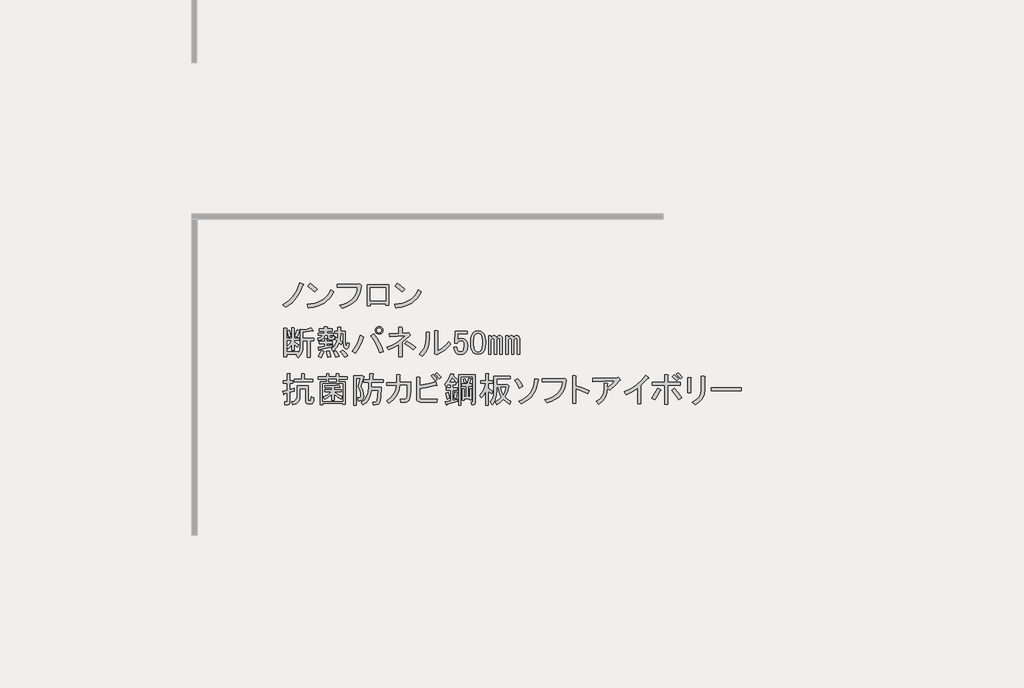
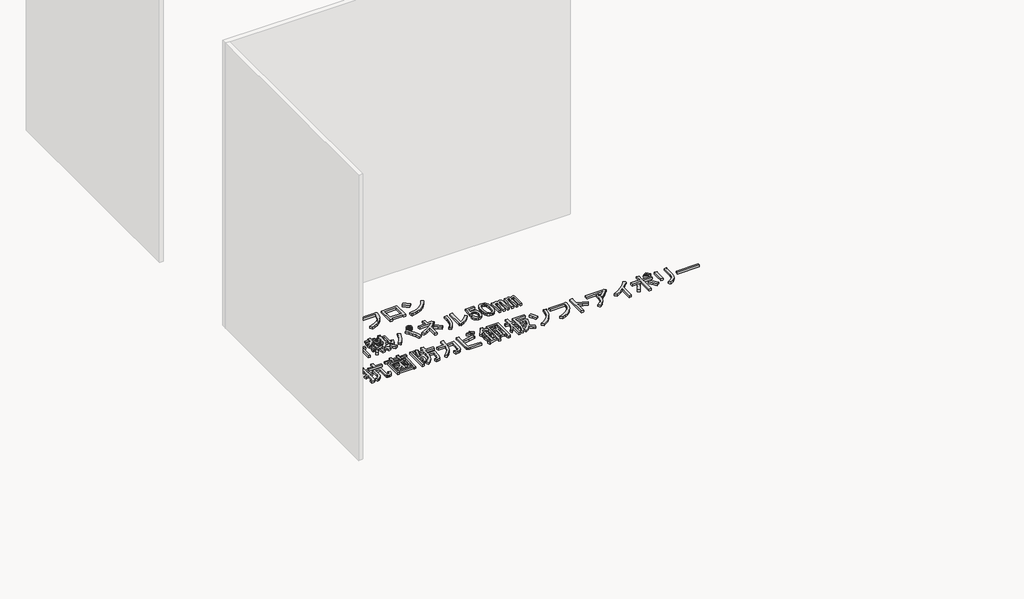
# One storey, part 70 of 117: 1 proxy.
"""IFC4 building model written with IfcOpenShell, lengths in millimetres."""

from ifc_helpers import new_model, si_unit, frame, origin, place, context, project, spatial, polyline, outline, extrude, element, save

model = new_model("IFC4")

# Units and contexts
model_context = context("Model", 3, world=origin())
ifc_project = project(units=[si_unit("LENGTHUNIT", "METRE", prefix="MILLI")], contexts=[model_context])

# Site, building, storey
site = spatial("IfcSite", under=ifc_project)
building = spatial("IfcBuilding", under=site)
storey = spatial("IfcBuildingStorey", under=building, Name="レベル 1", Elevation=500.0)

# Proxy
placement = place(None, origin())
element("IfcBuildingElementProxy", 1, Name="200㎜\u3000MS Pゴシック", ObjectType="200㎜\u3000MS Pゴシック", at=placement, inside=storey, context=model_context, shape_type="SweptSolid", body=[
    extrude(outline(polyline([(-7056.3293015, 7392.9503118), (-7081.9047498, 7333.1784775), (-7110.353844, 7287.2001434), (-7152.0217093, 7241.7965385), (-7201.1610538, 7204.439142), (-7228.7480543, 7226.2788507), (-7181.0455327, 7256.7394971), (-7141.3892195, 7295.2463519), (-7124.0036619, 7319.1694538), (-7108.6296565, 7347.2593423), (-7095.2672031, 7379.5160173), (-7083.9163019, 7415.9394788), (-7052.8809264, 7402.1459786), (-7049.7199159, 7397.5481452), (-7056.3293015, 7392.9503118)])), frame((0.0, 0.0, 500.0), z_axis=(0.0, 0.0, 1.0), x_axis=(1.0, 0.0, 0.0)), (0.0, 0.0, 1.0), 25.0),
    extrude(outline(polyline([(-6956.6022948, 7337.7763109), (-7015.2246708, 7384.9041033), (-6995.6838788, 7409.0427287), (-6968.3842429, 7389.2145721), (-6934.7625862, 7359.6160196), (-6956.6022948, 7337.7763109)])), frame((0.0, 0.0, 500.0), z_axis=(0.0, 0.0, 1.0), x_axis=(1.0, 0.0, 0.0)), (0.0, 0.0, 1.0), 25.0),
    extrude(outline(polyline([(-6794.5286672, 7337.7763109), (-6811.052131, 7308.034076), (-6830.1618761, 7282.0275808), (-6851.8579025, 7259.7568252), (-6876.1402102, 7241.2218093), (-6903.0087992, 7226.422533), (-6932.4636694, 7215.3589964), (-6964.504821, 7208.0311994), (-6999.1322539, 7204.439142), (-7004.8795456, 7196.3929336), (-7010.6268374, 7202.1402253), (-7019.8225042, 7232.0261425), (-6983.9917321, 7234.7022252), (-6951.2142088, 7241.0062859), (-6921.4899342, 7250.9383244), (-6894.8189084, 7264.4983409), (-6871.2011313, 7281.6863354), (-6850.636603, 7302.5023077), (-6833.1253234, 7326.946258), (-6818.6672926, 7355.0181862), (-6794.5286672, 7337.7763109)])), frame((0.0, 0.0, 500.0), z_axis=(0.0, 0.0, 1.0), x_axis=(1.0, 0.0, 0.0)), (0.0, 0.0, 1.0), 25.0),
    extrude(outline(polyline([(-6743.7685864, 7222.8304757), (-6709.985287, 7232.5110702), (-6680.4765359, 7244.8857078), (-6655.242333, 7259.9543884), (-6634.2826783, 7277.717112), (-6617.597572, 7298.1738786), (-6605.1870138, 7321.3246882), (-6597.0510039, 7347.1695409), (-6593.1895423, 7375.7084365), (-6765.6082951, 7375.7084365), (-6765.6082951, 7400.9965202), (-6590.8906256, 7400.9965202), (-6574.7982086, 7404.4448953), (-6562.1541668, 7392.9503118), (-6565.674383, 7356.4550091), (-6573.9361149, 7323.4080815), (-6586.9393625, 7293.8095289), (-6604.6841258, 7267.6593514), (-6627.1704048, 7244.957549), (-6654.3981995, 7225.7041216), (-6686.3675099, 7209.8990692), (-6723.078336, 7197.5423919), (-6743.7685864, 7222.8304757)])), frame((0.0, 0.0, 500.0), z_axis=(0.0, 0.0, 1.0), x_axis=(1.0, 0.0, 0.0)), (0.0, 0.0, 1.0), 25.0),
    extrude(outline(polyline([(-6329.044013, 7223.979934), (-6355.4815551, 7223.979934), (-6355.4815551, 7236.6239759), (-6483.0714321, 7236.6239759), (-6483.0714321, 7218.2326423), (-6509.5089742, 7218.2326423), (-6509.5089742, 7397.5481452), (-6329.044013, 7397.5481452), (-6329.044013, 7223.979934)]), holes=[polyline([(-6483.0714321, 7372.2600614), (-6483.0714321, 7261.9120596), (-6355.4815551, 7261.9120596), (-6355.4815551, 7372.2600614), (-6483.0714321, 7372.2600614)])]), frame((0.0, 0.0, 500.0), z_axis=(0.0, 0.0, 1.0), x_axis=(1.0, 0.0, 0.0)), (0.0, 0.0, 1.0), 25.0),
    extrude(outline(polyline([(-6052.9900951, 7337.7763109), (-6069.5135589, 7308.034076), (-6088.623304, 7282.0275808), (-6110.3193304, 7259.7568252), (-6134.6016381, 7241.2218093), (-6161.4702271, 7226.422533), (-6190.9250974, 7215.3589964), (-6222.9662489, 7208.0311994), (-6257.5936818, 7204.439142), (-6263.3409736, 7196.3929336), (-6269.0882653, 7202.1402253), (-6278.2839321, 7232.0261425), (-6242.4531601, 7234.7022252), (-6209.6756367, 7241.0062859), (-6179.9513622, 7250.9383244), (-6153.2803363, 7264.4983409), (-6129.6625593, 7281.6863354), (-6109.0980309, 7302.5023077), (-6091.5867514, 7326.946258), (-6077.1287205, 7355.0181862), (-6052.9900951, 7337.7763109)])), frame((0.0, 0.0, 500.0), z_axis=(0.0, 0.0, 1.0), x_axis=(1.0, 0.0, 0.0)), (0.0, 0.0, 1.0), 25.0),
    extrude(outline(polyline([(-6215.0637228, 7337.7763109), (-6273.6860987, 7384.9041033), (-6254.1453067, 7409.0427287), (-6226.8456709, 7389.2145721), (-6193.2240141, 7359.6160196), (-6215.0637228, 7337.7763109)])), frame((0.0, 0.0, 500.0), z_axis=(0.0, 0.0, 1.0), x_axis=(1.0, 0.0, 0.0)), (0.0, 0.0, 1.0), 25.0),
    extrude(outline(polyline([(-7122.9978859, 6960.7654779), (-7105.7560106, 7013.6405621), (-7085.0657603, 7007.8932704), (-7083.3415727, 7004.7322599), (-7087.364677, 7002.1459786), (-7104.6065522, 6953.8687278), (-7122.9978859, 6960.7654779)])), frame((0.0, 0.0, 500.0), z_axis=(0.0, 0.0, 1.0), x_axis=(1.0, 0.0, 0.0)), (0.0, 0.0, 1.0), 25.0),
    extrude(outline(polyline([(-6968.9704667, 7009.0427287), (-6970.6946542, 7004.4448953), (-6978.1661335, 7006.743812), (-7055.1798431, 6994.0997701), (-7055.1798431, 6944.673061), (-6963.2231749, 6944.673061), (-6963.2231749, 6922.8333523), (-6994.2585505, 6922.8333523), (-6994.2585505, 6782.5994334), (-7017.2477175, 6782.5994334), (-7017.2477175, 6922.8333523), (-7055.1798431, 6922.8333523), (-7055.1798431, 6873.4066432), (-7057.7661244, 6845.6041193), (-7065.5249683, 6820.8189236), (-7078.4563747, 6799.051056), (-7096.5603438, 6780.3005167), (-7113.8022191, 6799.8413086), (-7103.4570939, 6809.0369755), (-7193.1148454, 6809.0369755), (-7193.1148454, 6787.1972668), (-7216.1040124, 6787.1972668), (-7216.1040124, 7026.284604), (-7194.2643037, 7026.284604), (-7189.3791057, 7023.9856873), (-7193.1148454, 7019.3878539), (-7193.1148454, 6943.5236026), (-7150.5848863, 6943.5236026), (-7150.5848863, 7030.8824374), (-7132.1935527, 7030.8824374), (-7127.3083547, 7028.5835207), (-7131.0440943, 7023.9856873), (-7131.0440943, 6943.5236026), (-7087.364677, 6943.5236026), (-7087.364677, 6925.132269), (-7131.0440943, 6925.132269), (-7131.0440943, 6915.9366022), (-7090.813052, 6889.4990601), (-7104.6065522, 6867.6593514), (-7131.0440943, 6894.0968935), (-7131.0440943, 6841.2218093), (-7150.5848863, 6841.2218093), (-7150.5848863, 6889.4990601), (-7163.8036574, 6869.6709035), (-7178.1718868, 6853.8658512), (-7190.8159287, 6872.2571848), (-7168.97622, 6896.3958102), (-7151.7343447, 6925.132269), (-7193.1148454, 6925.132269), (-7193.1148454, 6830.8766841), (-7095.4108854, 6830.8766841), (-7095.4108854, 6817.0831839), (-7082.479479, 6841.2218093), (-7078.1690102, 6874.5561015), (-7078.1690102, 7019.3878539), (-7056.3293015, 7013.6405621), (-7020.1213634, 7021.1120414), (-6989.660717, 7034.3308125), (-6968.9704667, 7009.0427287)])), frame((0.0, 0.0, 500.0), z_axis=(0.0, 0.0, 1.0), x_axis=(1.0, 0.0, 0.0)), (0.0, 0.0, 1.0), 25.0),
    extrude(outline(polyline([(-7177.0224284, 6952.7192695), (-7189.6664703, 7003.2954369), (-7170.1256783, 7010.1921871), (-7162.3668344, 6986.0535617), (-7157.4816364, 6959.6160196), (-7177.0224284, 6952.7192695)])), frame((0.0, 0.0, 500.0), z_axis=(0.0, 0.0, 1.0), x_axis=(1.0, 0.0, 0.0)), (0.0, 0.0, 1.0), 25.0),
    extrude(outline(polyline([(-6878.1632569, 6832.0261425), (-6874.7148818, 6827.1409445), (-6880.4621736, 6823.979934), (-6890.2325696, 6798.4044857), (-6901.1524239, 6779.1510583), (-6924.141591, 6790.6456418), (-6911.4975491, 6814.209538), (-6901.1524239, 6841.2218093), (-6878.1632569, 6832.0261425)])), frame((0.0, 0.0, 500.0), z_axis=(0.0, 0.0, 1.0), x_axis=(1.0, 0.0, 0.0)), (0.0, 0.0, 1.0), 25.0),
    extrude(outline(polyline([(-6833.3343812, 6836.6239759), (-6823.2766206, 6809.32434), (-6818.3914226, 6787.1972668), (-6847.1278814, 6781.449975), (-6849.7141627, 6803.0023191), (-6857.4730066, 6833.1756008), (-6833.3343812, 6836.6239759)])), frame((0.0, 0.0, 500.0), z_axis=(0.0, 0.0, 1.0), x_axis=(1.0, 0.0, 0.0)), (0.0, 0.0, 1.0), 25.0),
    extrude(outline(polyline([(-6718.388546, 6842.3712677), (-6693.6751914, 6821.1062881), (-6674.7091286, 6796.3929336), (-6701.1466707, 6781.449975), (-6720.4000981, 6811.0485276), (-6739.0787963, 6830.8766841), (-6718.388546, 6842.3712677)])), frame((0.0, 0.0, 500.0), z_axis=(0.0, 0.0, 1.0), x_axis=(1.0, 0.0, 0.0)), (0.0, 0.0, 1.0), 25.0),
    extrude(outline(polyline([(-6777.0109219, 6783.7488917), (-6785.344495, 6808.4622463), (-6798.8506306, 6829.7272258), (-6778.1603803, 6837.7734343), (-6761.2058696, 6816.2210902), (-6749.4239215, 6792.9445585), (-6777.0109219, 6783.7488917)])), frame((0.0, 0.0, 500.0), z_axis=(0.0, 0.0, 1.0), x_axis=(1.0, 0.0, 0.0)), (0.0, 0.0, 1.0), 25.0),
    extrude(outline(polyline([(-6916.0953825, 6846.9691011), (-6918.1069346, 6842.0839031), (-6921.8426743, 6843.520726), (-6927.589966, 6867.6593514), (-6872.4159651, 6875.7055599), (-6872.4159651, 6898.6947269), (-6916.0953825, 6898.6947269), (-6916.0953825, 6917.0860605), (-6872.4159651, 6917.0860605), (-6872.4159651, 6940.0752276), (-6854.0246315, 6940.0752276), (-6849.1394335, 6937.7763109), (-6852.8751732, 6933.1784775), (-6852.8751732, 6917.0860605), (-6808.0462974, 6917.0860605), (-6808.0462974, 6898.6947269), (-6852.8751732, 6898.6947269), (-6852.8751732, 6879.1539349), (-6802.2990057, 6888.3496017), (-6802.2990057, 6872.2571848), (-6916.0953825, 6846.9691011)])), frame((0.0, 0.0, 500.0), z_axis=(0.0, 0.0, 1.0), x_axis=(1.0, 0.0, 0.0)), (0.0, 0.0, 1.0), 25.0),
    extrude(outline(polyline([(-6845.978423, 6968.8116864), (-6871.2665068, 6968.8116864), (-6875.8643402, 6951.3542877), (-6886.2094654, 6938.0636755), (-6902.3018823, 6928.9398498), (-6924.141591, 6923.9828107), (-6928.7394244, 6943.5236026), (-6903.4513406, 6952.1445403), (-6895.9798614, 6959.4723373), (-6891.9567571, 6968.8116864), (-6927.589966, 6968.8116864), (-6927.589966, 6987.20302), (-6873.5654235, 6987.20302), (-6873.5654235, 7004.4448953), (-6917.2448409, 7004.4448953), (-6917.2448409, 7022.8362289), (-6873.5654235, 7022.8362289), (-6873.5654235, 7041.2275626), (-6851.7257148, 7041.2275626), (-6846.8405168, 7038.9286459), (-6850.5762564, 7034.3308125), (-6850.5762564, 7022.8362289), (-6808.0462974, 7022.8362289), (-6808.0462974, 7004.4448953), (-6850.5762564, 7004.4448953), (-6850.5762564, 6987.20302), (-6797.7011723, 6987.20302), (-6797.7011723, 6968.8116864), (-6826.4376311, 6968.8116864), (-6826.4376311, 6956.1676445), (-6825.0008081, 6950.9950819), (-6820.6903393, 6949.2708944), (-6810.3452141, 6949.2708944), (-6806.6094745, 6952.4319049), (-6806.8968391, 6961.9149363), (-6787.3560471, 6959.6160196), (-6790.229693, 6938.0636755), (-6795.5459378, 6932.6755894), (-6803.448464, 6930.8795608), (-6827.5870894, 6930.8795608), (-6841.3805896, 6935.7647588), (-6845.978423, 6950.4203528), (-6845.978423, 6968.8116864)])), frame((0.0, 0.0, 500.0), z_axis=(0.0, 0.0, 1.0), x_axis=(1.0, 0.0, 0.0)), (0.0, 0.0, 1.0), 25.0),
    extrude(outline(polyline([(-6714.9401709, 6986.0535617), (-6736.7798796, 6986.0535617), (-6741.377713, 6928.5806441), (-6721.836921, 6910.1893104), (-6732.1820462, 6888.3496017), (-6748.2744631, 6904.4420187), (-6767.5278905, 6866.7972576), (-6797.7011723, 6834.3250592), (-6814.9430475, 6855.0153095), (-6799.8564067, 6866.9409399), (-6786.7813179, 6882.0275808), (-6775.7177813, 6900.2752321), (-6766.6657967, 6921.683894), (-6783.907672, 6936.6268525), (-6775.8614636, 6953.8687278), (-6762.0679633, 6943.5236026), (-6759.7690466, 6986.0535617), (-6787.3560471, 6986.0535617), (-6787.3560471, 7004.4448953), (-6759.7690466, 7004.4448953), (-6759.7690466, 7038.9286459), (-6737.9293379, 7038.9286459), (-6733.04414, 7036.6297292), (-6736.7798796, 7032.0318957), (-6736.7798796, 7004.4448953), (-6695.3993789, 7004.4448953), (-6695.3993789, 6907.8903937), (-6691.9510039, 6883.7517683), (-6688.7181523, 6881.7402162), (-6685.9163475, 6884.9012267), (-6681.6058787, 6906.7409354), (-6662.0650867, 6899.8441853), (-6666.591079, 6873.0474374), (-6674.421764, 6857.0268616), (-6685.5571418, 6851.7824579), (-6699.9972123, 6857.3142262), (-6706.5347567, 6864.6420232), (-6711.2044313, 6876.280289), (-6714.9401709, 6912.4882271), (-6714.9401709, 6986.0535617)])), frame((0.0, 0.0, 500.0), z_axis=(0.0, 0.0, 1.0), x_axis=(1.0, 0.0, 0.0)), (0.0, 0.0, 1.0), 25.0),
    extrude(outline(polyline([(-6456.3120417, 6983.754645), (-6429.6589762, 6947.0438188), (-6407.1726971, 6909.3272167), (-6388.8532047, 6870.6048384), (-6374.7004987, 6830.8766841), (-6405.7358742, 6820.531559), (-6421.1817208, 6863.6362472), (-6438.7828018, 6902.143102), (-6458.5391173, 6936.0521234), (-6480.4506671, 6965.3633113), (-6456.3120417, 6983.754645)])), frame((0.0, 0.0, 500.0), z_axis=(0.0, 0.0, 1.0), x_axis=(1.0, 0.0, 0.0)), (0.0, 0.0, 1.0), 25.0),
    extrude(outline(polyline([(-6543.6708765, 6957.3171029), (-6539.6477722, 6951.8571757), (-6545.9697932, 6946.9719777), (-6557.8954236, 6911.5542922), (-6572.9820644, 6877.717112), (-6591.2297158, 6845.460437), (-6612.6383776, 6814.7842672), (-6639.0759197, 6832.0261425), (-6615.8712292, 6863.4925649), (-6596.8333252, 6896.9705394), (-6581.9622078, 6932.460066), (-6571.2578769, 6969.9611447), (-6543.6708765, 6957.3171029)])), frame((0.0, 0.0, 500.0), z_axis=(0.0, 0.0, 1.0), x_axis=(1.0, 0.0, 0.0)), (0.0, 0.0, 1.0), 25.0),
    extrude(outline(polyline([(-6410.3337076, 6978.0073532), (-6422.9777495, 6980.3062699), (-6433.3228747, 6987.20302), (-6440.2196248, 6997.5481452), (-6442.5185415, 7010.1921871), (-6440.2196248, 7022.8362289), (-6433.3228747, 7033.1813541), (-6422.9777495, 7040.0781042), (-6410.3337076, 7042.3770209), (-6397.6896657, 7040.0781042), (-6387.3445406, 7033.1813541), (-6380.4477905, 7022.8362289), (-6378.1488738, 7010.1921871), (-6380.4477905, 6997.5481452), (-6387.3445406, 6987.20302), (-6397.6896657, 6980.3062699), (-6410.3337076, 6978.0073532)]), holes=[polyline([(-6410.3337076, 6989.5019367), (-6402.0001346, 6990.9387597), (-6395.390749, 6995.2492285), (-6391.0802802, 7001.858614), (-6389.6434573, 7010.1921871), (-6391.0802802, 7018.5257601), (-6395.390749, 7025.1351456), (-6402.0001346, 7029.4456145), (-6410.3337076, 7030.8824374), (-6418.6672807, 7029.4456145), (-6425.2766662, 7025.1351456), (-6429.587135, 7018.5257601), (-6431.023958, 7010.1921871), (-6429.587135, 7001.858614), (-6425.2766662, 6995.2492285), (-6418.6672807, 6990.9387597), (-6410.3337076, 6989.5019367)])]), frame((0.0, 0.0, 500.0), z_axis=(0.0, 0.0, 1.0), x_axis=(1.0, 0.0, 0.0)), (0.0, 0.0, 1.0), 25.0),
    extrude(outline(polyline([(-6120.6702029, 6844.6701844), (-6157.7402348, 6873.9813723), (-6190.7871624, 6895.2463519), (-6173.5452871, 6917.0860605), (-6134.7510677, 6893.8095289), (-6101.1294109, 6867.6593514), (-6120.6702029, 6844.6701844)])), frame((0.0, 0.0, 500.0), z_axis=(0.0, 0.0, 1.0), x_axis=(1.0, 0.0, 0.0)), (0.0, 0.0, 1.0), 25.0),
    extrude(outline(polyline([(-6166.648537, 6988.3524784), (-6159.7517869, 6990.6513951), (-6147.107745, 6973.4095198), (-6145.9582866, 6967.3748634), (-6151.7055784, 6965.3633113), (-6214.9257878, 6909.0398521), (-6214.9257878, 6788.3467251), (-6241.3633299, 6788.3467251), (-6241.3633299, 6890.6485184), (-6281.5943722, 6866.5098931), (-6326.4232479, 6844.6701844), (-6345.9640399, 6865.3604347), (-6300.4167527, 6884.8293855), (-6259.1799343, 6907.6030291), (-6222.2535848, 6933.6813655), (-6189.637704, 6963.0643946), (-6319.5264978, 6957.3171029), (-6322.9748729, 6982.6051866), (-6241.3633299, 6984.9041033), (-6241.3633299, 7036.6297292), (-6218.3741628, 7036.6297292), (-6212.3395065, 7033.1813541), (-6214.9257878, 7027.4340623), (-6214.9257878, 6986.0535617), (-6166.648537, 6988.3524784)])), frame((0.0, 0.0, 500.0), z_axis=(0.0, 0.0, 1.0), x_axis=(1.0, 0.0, 0.0)), (0.0, 0.0, 1.0), 25.0),
    extrude(outline(polyline([(-6067.703162, 6806.7380587), (-6042.5587606, 6835.9774056), (-6024.5984738, 6868.5214452), (-6013.8223018, 6904.3701775), (-6010.2302444, 6943.5236026), (-6010.2302444, 6995.2492285), (-5986.091619, 6995.2492285), (-5980.3443273, 6991.8008534), (-5983.7927023, 6986.0535617), (-5983.7927023, 6944.673061), (-5987.6002831, 6898.9102504), (-5999.0230255, 6858.17632), (-6018.0609295, 6822.4712699), (-6044.713995, 6791.7951002), (-6067.703162, 6806.7380587)])), frame((0.0, 0.0, 500.0), z_axis=(0.0, 0.0, 1.0), x_axis=(1.0, 0.0, 0.0)), (0.0, 0.0, 1.0), 25.0),
    extrude(outline(polyline([(-5913.6757429, 6837.7734343), (-5888.8905471, 6849.9864292), (-5865.1111275, 6867.0846222), (-5842.3374839, 6889.0680132), (-5820.5696163, 6915.9366022), (-5804.4771994, 6894.0968935), (-5827.753731, 6866.2943696), (-5853.9039086, 6842.6586322), (-5882.9277319, 6823.1896814), (-5914.8252012, 6807.8875171), (-5924.020868, 6803.2896837), (-5942.4122017, 6817.0831839), (-5940.113285, 6822.8304757), (-5940.113285, 7007.8932704), (-5915.9746596, 7007.8932704), (-5910.2273678, 7004.4448953), (-5913.6757429, 6998.6976035), (-5913.6757429, 6837.7734343)])), frame((0.0, 0.0, 500.0), z_axis=(0.0, 0.0, 1.0), x_axis=(1.0, 0.0, 0.0)), (0.0, 0.0, 1.0), 25.0),
    extrude(outline(polyline([(-5763.0966987, 7004.4448953), (-5664.2432805, 7004.4448953), (-5664.2432805, 6982.6051866), (-5741.2569901, 6982.6051866), (-5741.2569901, 6979.1568116), (-5744.7053651, 6936.6268525), (-5745.8548235, 6929.7301024), (-5730.3371357, 6940.0752276), (-5713.6699896, 6943.5236026), (-5692.6923747, 6939.787863), (-5675.737864, 6928.5806441), (-5663.6685513, 6908.7524875), (-5659.6454471, 6881.4528516), (-5664.8180096, 6846.9691011), (-5671.2837129, 6833.1756008), (-5680.3356974, 6821.6810173), (-5698.4396664, 6809.6117046), (-5720.5667397, 6805.5886004), (-5741.5443546, 6809.32434), (-5758.4988653, 6820.531559), (-5770.568178, 6839.2102572), (-5776.890199, 6865.3604347), (-5750.4526569, 6865.3604347), (-5746.4295526, 6846.6817365), (-5738.9580734, 6834.3250592), (-5731.1992295, 6829.1524966), (-5721.7161981, 6827.4283091), (-5709.3595208, 6829.4398612), (-5699.8764894, 6835.4745175), (-5690.393458, 6852.4290282), (-5687.2324475, 6878.0044766), (-5689.8187288, 6902.143102), (-5697.5775727, 6917.0860605), (-5705.049052, 6922.2586231), (-5713.6699896, 6923.9828107), (-5726.6013961, 6921.3965294), (-5737.808615, 6913.6376855), (-5747.0042818, 6903.2925603), (-5769.9934489, 6903.2925603), (-5768.8439905, 6911.3387688), (-5763.0966987, 6999.8470619), (-5763.0966987, 7004.4448953)])), frame((0.0, 0.0, 500.0), z_axis=(0.0, 0.0, 1.0), x_axis=(1.0, 0.0, 0.0)), (0.0, 0.0, 1.0), 25.0),
    extrude(outline(polyline([(-5634.3573633, 6918.2355189), (-5632.9205404, 6941.7994151), (-5628.6100716, 6961.9149363), (-5621.4259569, 6978.5820824), (-5611.3681963, 6991.8008534), (-5593.2642272, 7003.8701661), (-5571.137154, 7007.8932704), (-5549.0100807, 7003.8701661), (-5530.9061116, 6991.8008534), (-5520.8483511, 6978.5820824), (-5513.6642364, 6961.9149363), (-5509.3537675, 6941.7994151), (-5507.9169446, 6918.2355189), (-5507.9169446, 6895.2463519), (-5509.3537675, 6872.1853437), (-5513.6642364, 6852.4290282), (-5520.8483511, 6835.9774056), (-5530.9061116, 6822.8304757), (-5549.0100807, 6810.761163), (-5571.137154, 6806.7380587), (-5593.2642272, 6810.761163), (-5611.3681963, 6822.8304757), (-5621.4259569, 6835.9774056), (-5628.6100716, 6852.4290282), (-5632.9205404, 6872.1853437), (-5634.3573633, 6895.2463519), (-5634.3573633, 6918.2355189)]), holes=[polyline([(-5571.137154, 6986.0535617), (-5582.0570083, 6983.754645), (-5591.8274043, 6976.8578948), (-5598.3649487, 6967.7340692), (-5603.0346232, 6955.3055507), (-5606.7703629, 6920.5344356), (-5606.7703629, 6894.0968935), (-5602.7472586, 6859.9005075), (-5597.7183783, 6847.3283068), (-5590.6779459, 6837.7734343), (-5581.1949145, 6830.8766841), (-5571.137154, 6828.5777674), (-5560.2172996, 6830.8766841), (-5550.4469036, 6837.7734343), (-5543.9093592, 6846.8972599), (-5539.2396847, 6859.3257784), (-5535.503945, 6894.0968935), (-5535.503945, 6920.5344356), (-5539.2396847, 6955.3055507), (-5543.9093592, 6967.7340692), (-5550.4469036, 6976.8578948), (-5560.2172996, 6983.754645), (-5571.137154, 6986.0535617)])]), frame((0.0, 0.0, 500.0), z_axis=(0.0, 0.0, 1.0), x_axis=(1.0, 0.0, 0.0)), (0.0, 0.0, 1.0), 25.0),
    extrude(outline(polyline([(-5463.0880689, 6806.7380587), (-5482.6288608, 6806.7380587), (-5482.6288608, 6964.213853), (-5463.0880689, 6964.213853), (-5463.0880689, 6946.9719777), (-5451.0187562, 6962.4896654), (-5437.7999851, 6967.662228), (-5428.6043183, 6966.2254051), (-5421.7075682, 6961.9149363), (-5414.8108181, 6948.121436), (-5401.8794116, 6962.77703), (-5388.373276, 6967.662228), (-5380.0397029, 6966.2254051), (-5373.4303174, 6961.9149363), (-5368.2577548, 6953.2939986), (-5366.5335673, 6941.2246859), (-5366.5335673, 6806.7380587), (-5386.0743593, 6806.7380587), (-5386.0743593, 6930.8795608), (-5388.6606406, 6940.3625922), (-5396.4194844, 6943.5236026), (-5406.7646096, 6938.9257692), (-5412.799266, 6930.3048316), (-5414.8108181, 6920.5344356), (-5414.8108181, 6806.7380587), (-5434.3516101, 6806.7380587), (-5434.3516101, 6930.8795608), (-5436.9378914, 6940.3625922), (-5444.6967352, 6943.5236026), (-5455.0418604, 6938.9257692), (-5461.0765167, 6930.3048316), (-5463.0880689, 6920.5344356), (-5463.0880689, 6806.7380587)])), frame((0.0, 0.0, 500.0), z_axis=(0.0, 0.0, 1.0), x_axis=(1.0, 0.0, 0.0)), (0.0, 0.0, 1.0), 25.0),
    extrude(outline(polyline([(-5241.2426069, 6967.662228), (-5232.9090339, 6966.2254051), (-5226.2996483, 6961.9149363), (-5221.1270858, 6953.2939986), (-5219.4028982, 6941.2246859), (-5219.4028982, 6806.7380587), (-5238.9436902, 6806.7380587), (-5238.9436902, 6930.8795608), (-5241.5299715, 6940.3625922), (-5249.2888154, 6943.5236026), (-5259.6339406, 6938.9257692), (-5265.6685969, 6930.3048316), (-5267.680149, 6920.5344356), (-5267.680149, 6806.7380587), (-5287.220941, 6806.7380587), (-5287.220941, 6930.8795608), (-5289.8072223, 6940.3625922), (-5297.5660662, 6943.5236026), (-5307.9111913, 6938.9257692), (-5313.9458477, 6930.3048316), (-5315.9573998, 6920.5344356), (-5315.9573998, 6806.7380587), (-5335.4981918, 6806.7380587), (-5335.4981918, 6964.213853), (-5315.9573998, 6964.213853), (-5315.9573998, 6946.9719777), (-5303.8880871, 6962.4896654), (-5290.6693161, 6967.662228), (-5281.4736492, 6966.2254051), (-5274.5768991, 6961.9149363), (-5267.680149, 6948.121436), (-5254.7487426, 6962.77703), (-5241.2426069, 6967.662228)])), frame((0.0, 0.0, 500.0), z_axis=(0.0, 0.0, 1.0), x_axis=(1.0, 0.0, 0.0)), (0.0, 0.0, 1.0), 25.0),
    extrude(outline(polyline([(-7066.6744266, 6596.3986868), (-7066.6744266, 6642.3770209), (-7044.8347179, 6642.3770209), (-7039.9495199, 6640.0781042), (-7043.6852596, 6635.4802708), (-7043.6852596, 6596.3986868), (-6972.4188418, 6596.3986868), (-6972.4188418, 6574.5589781), (-7128.7451776, 6574.5589781), (-7128.7451776, 6596.3986868), (-7066.6744266, 6596.3986868)])), frame((0.0, 0.0, 500.0), z_axis=(0.0, 0.0, 1.0), x_axis=(1.0, 0.0, 0.0)), (0.0, 0.0, 1.0), 25.0),
    extrude(outline(polyline([(-7010.3509674, 6538.9257692), (-7010.3509674, 6422.8304757), (-7008.3394153, 6415.9337256), (-7002.3047589, 6413.6348089), (-6995.4080088, 6413.6348089), (-6990.8101754, 6415.9337256), (-6988.5112587, 6422.8304757), (-6986.212342, 6445.8196427), (-6962.0737166, 6437.7734343), (-6964.3726333, 6414.7842672), (-6966.67155, 6403.2178425), (-6971.2693834, 6394.9561106), (-6978.1661335, 6389.9990715), (-6987.3618003, 6388.3467251), (-7009.201509, 6388.3467251), (-7019.7621576, 6389.6398658), (-7027.3054781, 6393.5192877), (-7031.8314703, 6399.9849909), (-7033.3401344, 6409.0369755), (-7033.3401344, 6517.0860605), (-7080.4679269, 6517.0860605), (-7080.4679269, 6451.5669345), (-7084.2036665, 6426.7098976), (-7095.4108854, 6406.1633296), (-7114.0895837, 6389.9272303), (-7140.2397612, 6378.0015999), (-7149.435428, 6403.2896837), (-7129.3199068, 6410.761163), (-7114.9516774, 6421.6810173), (-7106.3307398, 6436.0492467), (-7103.4570939, 6453.8658512), (-7103.4570939, 6538.9257692), (-7010.3509674, 6538.9257692)])), frame((0.0, 0.0, 500.0), z_axis=(0.0, 0.0, 1.0), x_axis=(1.0, 0.0, 0.0)), (0.0, 0.0, 1.0), 25.0),
    extrude(outline(polyline([(-7212.6556373, 6472.2571848), (-7216.1040124, 6466.2225285), (-7219.5523875, 6471.1077265), (-7227.5985959, 6494.0968935), (-7189.6664703, 6502.143102), (-7189.6664703, 6561.9149363), (-7223.0007625, 6561.9149363), (-7223.0007625, 6583.754645), (-7189.6664703, 6583.754645), (-7189.6664703, 6643.5264793), (-7167.8267616, 6643.5264793), (-7162.9415636, 6641.2275626), (-7166.6773033, 6636.6297292), (-7166.6773033, 6583.754645), (-7140.2397612, 6583.754645), (-7140.2397612, 6561.9149363), (-7166.6773033, 6561.9149363), (-7166.6773033, 6507.8903937), (-7131.0440943, 6518.2355189), (-7128.7451776, 6496.3958102), (-7166.6773033, 6484.9012267), (-7166.6773033, 6396.3929336), (-7170.4130429, 6384.3236209), (-7181.6202618, 6380.3005167), (-7208.0578039, 6380.3005167), (-7211.506179, 6405.5886004), (-7194.2643037, 6405.5886004), (-7190.8159287, 6406.7380587), (-7189.6664703, 6410.1864338), (-7189.6664703, 6479.1539349), (-7212.6556373, 6472.2571848)])), frame((0.0, 0.0, 500.0), z_axis=(0.0, 0.0, 1.0), x_axis=(1.0, 0.0, 0.0)), (0.0, 0.0, 1.0), 25.0),
    extrude(outline(polyline([(-6751.7228382, 6576.8578948), (-6696.5488373, 6576.8578948), (-6696.5488373, 6382.5994334), (-6716.0896293, 6382.5994334), (-6716.0896293, 6391.7951002), (-6888.5083821, 6391.7951002), (-6888.5083821, 6378.0015999), (-6908.0491741, 6378.0015999), (-6908.0491741, 6576.8578948), (-6855.1740899, 6576.8578948), (-6855.1740899, 6597.5481452), (-6925.2910493, 6597.5481452), (-6925.2910493, 6615.9394788), (-6855.1740899, 6615.9394788), (-6855.1740899, 6642.3770209), (-6836.7827562, 6642.3770209), (-6831.8975582, 6640.0781042), (-6835.6332979, 6635.4802708), (-6835.6332979, 6615.9394788), (-6771.2636302, 6615.9394788), (-6771.2636302, 6642.3770209), (-6752.8722965, 6642.3770209), (-6747.9870985, 6640.0781042), (-6751.7228382, 6635.4802708), (-6751.7228382, 6615.9394788), (-6678.1575036, 6615.9394788), (-6678.1575036, 6597.5481452), (-6751.7228382, 6597.5481452), (-6751.7228382, 6576.8578948)]), holes=[polyline([(-6888.5083821, 6558.4665612), (-6888.5083821, 6410.1864338), (-6716.0896293, 6410.1864338), (-6716.0896293, 6558.4665612), (-6888.5083821, 6558.4665612)]), polyline([(-6835.6332979, 6576.8578948), (-6771.2636302, 6576.8578948), (-6771.2636302, 6597.5481452), (-6835.6332979, 6597.5481452), (-6835.6332979, 6576.8578948)])]), frame((0.0, 0.0, 500.0), z_axis=(0.0, 0.0, 1.0), x_axis=(1.0, 0.0, 0.0)), (0.0, 0.0, 1.0), 25.0),
    extrude(outline(polyline([(-6870.1170484, 6538.9257692), (-6804.0231932, 6542.6615089), (-6752.8722965, 6549.2708944), (-6742.5271714, 6535.4773942), (-6740.2282547, 6529.4427378), (-6747.1250048, 6529.7301024), (-6791.9538805, 6526.2817274), (-6791.9538805, 6509.0398521), (-6732.1820462, 6509.0398521), (-6732.1820462, 6490.6485184), (-6788.5055054, 6490.6485184), (-6757.1827653, 6466.2225285), (-6720.6874627, 6450.4174761), (-6728.7336711, 6428.5777674), (-6761.2058696, 6444.0954552), (-6791.9538805, 6469.9582681), (-6791.9538805, 6419.3821006), (-6811.4946725, 6419.3821006), (-6811.4946725, 6468.8088098), (-6836.4953916, 6446.1070073), (-6872.4159651, 6426.2788507), (-6881.611632, 6445.8196427), (-6842.8174126, 6465.6477993), (-6813.7935892, 6490.6485184), (-6871.2665068, 6490.6485184), (-6871.2665068, 6509.0398521), (-6811.4946725, 6509.0398521), (-6811.4946725, 6523.9828107), (-6865.519215, 6521.683894), (-6870.1170484, 6538.9257692)])), frame((0.0, 0.0, 500.0), z_axis=(0.0, 0.0, 1.0), x_axis=(1.0, 0.0, 0.0)), (0.0, 0.0, 1.0), 25.0),
    extrude(outline(polyline([(-6475.8528337, 6504.4420187), (-6483.0369484, 6461.2654893), (-6497.6925424, 6425.9914861), (-6519.8196156, 6398.6200091), (-6549.4181682, 6379.1510583), (-6560.9127517, 6402.1402253), (-6533.2539101, 6421.9683819), (-6513.4975947, 6450.4174761), (-6501.6438055, 6487.487508), (-6497.6925424, 6533.1784775), (-6497.6925424, 6571.1106031), (-6541.3719597, 6571.1106031), (-6541.3719597, 6592.9503118), (-6488.4968756, 6592.9503118), (-6488.4968756, 6641.2275626), (-6463.2087918, 6641.2275626), (-6457.1741355, 6637.7791875), (-6462.0593335, 6632.0318957), (-6462.0593335, 6592.9503118), (-6373.5510404, 6592.9503118), (-6373.5510404, 6571.1106031), (-6474.7033753, 6571.1106031), (-6474.7033753, 6526.2817274), (-6391.942374, 6526.2817274), (-6397.6896657, 6444.0954552), (-6405.7358742, 6399.8413086), (-6410.6210722, 6391.2922121), (-6418.3799161, 6385.1857146), (-6442.5185415, 6380.3005167), (-6460.9098751, 6380.3005167), (-6464.3582502, 6402.1402253), (-6447.1163749, 6402.1402253), (-6434.7596976, 6405.3012358), (-6427.5755829, 6414.7842672), (-6418.3799161, 6504.4420187), (-6475.8528337, 6504.4420187)])), frame((0.0, 0.0, 500.0), z_axis=(0.0, 0.0, 1.0), x_axis=(1.0, 0.0, 0.0)), (0.0, 0.0, 1.0), 25.0),
    extrude(outline(polyline([(-6542.5214181, 6479.1539349), (-6540.5817071, 6451.4950933), (-6545.1076994, 6431.7387779), (-6556.0993949, 6419.8849886), (-6573.5567936, 6415.9337256), (-6587.3502938, 6415.9337256), (-6591.9481272, 6437.7734343), (-6580.4535437, 6437.7734343), (-6572.1199707, 6439.9286687), (-6566.6600435, 6446.3943719), (-6564.0737622, 6457.1705439), (-6564.3611268, 6472.2571848), (-6571.2578769, 6499.2694561), (-6587.3502938, 6534.3279358), (-6568.9589602, 6605.5943537), (-6603.4427108, 6605.5943537), (-6603.4427108, 6376.8521416), (-6626.4318778, 6376.8521416), (-6626.4318778, 6627.4340623), (-6562.0622101, 6627.4340623), (-6559.7632934, 6632.0318957), (-6535.624668, 6619.3878539), (-6534.187845, 6615.6521142), (-6539.073043, 6613.6405621), (-6565.5105851, 6535.4773942), (-6549.9928974, 6503.0051957), (-6542.5214181, 6479.1539349)])), frame((0.0, 0.0, 500.0), z_axis=(0.0, 0.0, 1.0), x_axis=(1.0, 0.0, 0.0)), (0.0, 0.0, 1.0), 25.0),
    extrude(outline(polyline([(-6170.096912, 6549.2708944), (-6235.6160381, 6546.9719777), (-6243.87777, 6500.706279), (-6261.7662156, 6459.6131429), (-6289.2813749, 6423.6925694), (-6326.4232479, 6392.9445585), (-6345.9640399, 6412.4853505), (-6310.9774013, 6440.7189213), (-6285.3301118, 6472.5445494), (-6269.0221715, 6507.9622349), (-6262.0535802, 6546.9719777), (-6343.6651232, 6544.673061), (-6345.9640399, 6567.662228), (-6260.9041219, 6569.9611447), (-6260.9041219, 6634.3308125), (-6236.7654965, 6634.3308125), (-6229.8687463, 6630.8824374), (-6234.4665798, 6625.1351456), (-6234.4665798, 6569.9611447), (-6143.6593699, 6573.4095198), (-6143.6593699, 6502.143102), (-6146.2456512, 6454.1532158), (-6154.0044951, 6422.8304757), (-6160.6138806, 6412.7727151), (-6170.096912, 6405.5886004), (-6182.4535893, 6401.2781316), (-6197.6839125, 6399.8413086), (-6225.2709129, 6399.8413086), (-6228.719288, 6428.5777674), (-6198.8333708, 6426.2788507), (-6184.752506, 6429.1524966), (-6176.9936622, 6437.7734343), (-6171.8210996, 6463.061518), (-6170.096912, 6502.143102), (-6170.096912, 6549.2708944)])), frame((0.0, 0.0, 500.0), z_axis=(0.0, 0.0, 1.0), x_axis=(1.0, 0.0, 0.0)), (0.0, 0.0, 1.0), 25.0),
    extrude(outline(polyline([(-5919.606948, 6546.9719777), (-5919.3195834, 6540.9373213), (-5929.9520731, 6543.5236026), (-5996.0459284, 6528.2932795), (-6065.5881587, 6517.0860605), (-6065.5881587, 6442.3712677), (-6061.852419, 6431.1640487), (-6050.6452001, 6427.4283091), (-5918.4574896, 6427.4283091), (-5920.7564063, 6402.1402253), (-6055.2430335, 6402.1402253), (-6071.3354504, 6404.0080952), (-6082.830034, 6409.6117046), (-6089.7267841, 6418.9510537), (-6092.0257008, 6432.0261425), (-6092.0257008, 6612.4911038), (-6069.0365337, 6612.4911038), (-6061.852419, 6609.0427287), (-6065.5881587, 6603.2954369), (-6065.5881587, 6544.673061), (-5992.3101887, 6556.4550091), (-5928.8026148, 6573.4095198), (-5919.606948, 6546.9719777)])), frame((0.0, 0.0, 500.0), z_axis=(0.0, 0.0, 1.0), x_axis=(1.0, 0.0, 0.0)), (0.0, 0.0, 1.0), 25.0),
    extrude(outline(polyline([(-5933.4004482, 6584.9041033), (-5969.0336571, 6625.1351456), (-5952.9412402, 6637.7791875), (-5917.3080313, 6597.5481452), (-5933.4004482, 6584.9041033)])), frame((0.0, 0.0, 500.0), z_axis=(0.0, 0.0, 1.0), x_axis=(1.0, 0.0, 0.0)), (0.0, 0.0, 1.0), 25.0),
    extrude(outline(polyline([(-5900.066156, 6600.9965202), (-5935.6993649, 6640.0781042), (-5921.9058647, 6652.7221461), (-5885.1231974, 6613.6405621), (-5900.066156, 6600.9965202)])), frame((0.0, 0.0, 500.0), z_axis=(0.0, 0.0, 1.0), x_axis=(1.0, 0.0, 0.0)), (0.0, 0.0, 1.0), 25.0),
    extrude(outline(polyline([(-5750.4526569, 6565.3633113), (-5791.8331575, 6609.0427287), (-5813.6728662, 6569.9611447), (-5758.4988653, 6569.9611447), (-5758.4988653, 6551.5698111), (-5784.9364074, 6551.5698111), (-5784.9364074, 6522.8333523), (-5747.0042818, 6522.8333523), (-5747.0042818, 6504.4420187), (-5784.9364074, 6504.4420187), (-5784.9364074, 6417.0831839), (-5745.8548235, 6427.4283091), (-5743.5559068, 6407.8875171), (-5835.5125749, 6382.5994334), (-5837.8114916, 6376.8521416), (-5842.409325, 6380.3005167), (-5849.3060752, 6403.2896837), (-5804.4771994, 6412.4853505), (-5804.4771994, 6504.4420187), (-5842.409325, 6504.4420187), (-5842.409325, 6522.8333523), (-5804.4771994, 6522.8333523), (-5804.4771994, 6551.5698111), (-5826.3169081, 6551.5698111), (-5841.2598667, 6533.1784775), (-5853.9039086, 6553.8687278), (-5825.7421789, 6591.5134888), (-5801.0288244, 6642.3770209), (-5779.1891157, 6636.6297292), (-5775.7407406, 6632.8939895), (-5781.4880324, 6630.8824374), (-5782.6374907, 6627.4340623), (-5737.808615, 6589.5019367), (-5750.4526569, 6565.3633113)])), frame((0.0, 0.0, 500.0), z_axis=(0.0, 0.0, 1.0), x_axis=(1.0, 0.0, 0.0)), (0.0, 0.0, 1.0), 25.0),
    extrude(outline(polyline([(-5682.6346141, 6602.1459786), (-5675.4504994, 6586.9156554), (-5669.9905722, 6566.5127697), (-5687.2324475, 6560.7654779), (-5698.727031, 6597.5481452), (-5682.6346141, 6602.1459786)])), frame((0.0, 0.0, 500.0), z_axis=(0.0, 0.0, 1.0), x_axis=(1.0, 0.0, 0.0)), (0.0, 0.0, 1.0), 25.0),
    extrude(outline(polyline([(-5629.7595299, 6600.9965202), (-5627.1732486, 6597.5481452), (-5633.207905, 6594.0997701), (-5645.8519468, 6556.1676445), (-5625.1616965, 6556.1676445), (-5625.1616965, 6537.7763109), (-5656.197072, 6537.7763109), (-5656.197072, 6449.2680178), (-5641.2541134, 6449.2680178), (-5641.2541134, 6517.0860605), (-5625.1616965, 6517.0860605), (-5625.1616965, 6422.8304757), (-5641.2541134, 6422.8304757), (-5641.2541134, 6430.8766841), (-5687.2324475, 6430.8766841), (-5687.2324475, 6418.2326423), (-5703.3248644, 6418.2326423), (-5703.3248644, 6514.7871438), (-5687.2324475, 6514.7871438), (-5687.2324475, 6449.2680178), (-5672.2894889, 6449.2680178), (-5672.2894889, 6537.7763109), (-5707.9226978, 6537.7763109), (-5707.9226978, 6556.1676445), (-5661.9443638, 6556.1676445), (-5651.5992386, 6605.5943537), (-5629.7595299, 6600.9965202)])), frame((0.0, 0.0, 500.0), z_axis=(0.0, 0.0, 1.0), x_axis=(1.0, 0.0, 0.0)), (0.0, 0.0, 1.0), 25.0),
    extrude(outline(polyline([(-5735.5096983, 6634.3308125), (-5595.2757793, 6634.3308125), (-5595.2757793, 6394.0940169), (-5599.011519, 6382.8867979), (-5610.2187379, 6379.1510583), (-5626.3111549, 6379.1510583), (-5630.9089883, 6400.990767), (-5619.4144047, 6400.990767), (-5615.9660297, 6402.1402253), (-5614.8165713, 6405.5886004), (-5614.8165713, 6615.9394788), (-5715.9689063, 6615.9394788), (-5715.9689063, 6376.8521416), (-5735.5096983, 6376.8521416), (-5735.5096983, 6634.3308125)])), frame((0.0, 0.0, 500.0), z_axis=(0.0, 0.0, 1.0), x_axis=(1.0, 0.0, 0.0)), (0.0, 0.0, 1.0), 25.0),
    extrude(outline(polyline([(-5747.0042818, 6486.050685), (-5744.4180005, 6482.8896746), (-5748.1537402, 6480.3033933), (-5756.1999486, 6433.1756008), (-5774.5912823, 6435.4745175), (-5768.8439905, 6489.4990601), (-5747.0042818, 6486.050685)])), frame((0.0, 0.0, 500.0), z_axis=(0.0, 0.0, 1.0), x_axis=(1.0, 0.0, 0.0)), (0.0, 0.0, 1.0), 25.0),
    extrude(outline(polyline([(-5824.0179914, 6484.9012267), (-5812.5234079, 6433.1756008), (-5833.2136582, 6427.4283091), (-5844.7082417, 6479.1539349), (-5824.0179914, 6484.9012267)])), frame((0.0, 0.0, 500.0), z_axis=(0.0, 0.0, 1.0), x_axis=(1.0, 0.0, 0.0)), (0.0, 0.0, 1.0), 25.0),
    extrude(outline(polyline([(-5424.0064849, 6405.5886004), (-5395.2700261, 6422.8304757), (-5373.4303174, 6444.6701844), (-5391.2469219, 6486.6254142), (-5401.0173179, 6527.4311857), (-5413.6613597, 6527.4311857), (-5413.6613597, 6503.2925603), (-5416.1039587, 6461.5528539), (-5423.4317557, 6427.1409445), (-5435.6447507, 6400.0568321), (-5452.7429437, 6380.3005167), (-5466.5364439, 6403.2896837), (-5453.4613552, 6420.6752413), (-5444.1220061, 6442.9459968), (-5438.5183966, 6470.1019504), (-5436.6505268, 6502.143102), (-5436.6505268, 6622.8362289), (-5299.8649829, 6622.8362289), (-5299.8649829, 6600.9965202), (-5413.6613597, 6600.9965202), (-5413.6613597, 6549.2708944), (-5334.3487334, 6549.2708944), (-5328.6014417, 6555.0181862), (-5309.0606497, 6541.2246859), (-5307.6238268, 6537.4889463), (-5312.5090247, 6533.1784775), (-5324.865702, 6486.6254142), (-5343.5444003, 6445.8196427), (-5324.5783374, 6427.4283091), (-5292.9682328, 6409.0369755), (-5302.1638996, 6384.8983501), (-5330.0382646, 6400.990767), (-5358.4873588, 6426.2788507), (-5382.9133488, 6401.8528608), (-5414.8108181, 6381.449975), (-5424.0064849, 6405.5886004)]), holes=[polyline([(-5379.1776092, 6527.4311857), (-5371.1314007, 6494.3842581), (-5358.4873588, 6466.5098931), (-5345.843317, 6492.6600706), (-5337.7971085, 6527.4311857), (-5379.1776092, 6527.4311857)])]), frame((0.0, 0.0, 500.0), z_axis=(0.0, 0.0, 1.0), x_axis=(1.0, 0.0, 0.0)), (0.0, 0.0, 1.0), 25.0),
    extrude(outline(polyline([(-5506.7674862, 6376.8521416), (-5506.7674862, 6496.3958102), (-5524.5840907, 6462.1994242), (-5543.5501535, 6440.072351), (-5555.044737, 6460.7626013), (-5537.8028617, 6483.4644037), (-5524.0093615, 6507.8903937), (-5513.6642364, 6534.0405712), (-5506.7674862, 6561.9149363), (-5548.1479869, 6561.9149363), (-5548.1479869, 6583.754645), (-5506.7674862, 6583.754645), (-5506.7674862, 6643.5264793), (-5484.9277776, 6643.5264793), (-5480.0425796, 6641.2275626), (-5483.7783192, 6636.6297292), (-5483.7783192, 6583.754645), (-5445.8461936, 6583.754645), (-5445.8461936, 6561.9149363), (-5483.7783192, 6561.9149363), (-5483.7783192, 6521.683894), (-5445.8461936, 6495.2463519), (-5456.1913188, 6472.2571848), (-5483.7783192, 6495.2463519), (-5483.7783192, 6376.8521416), (-5506.7674862, 6376.8521416)])), frame((0.0, 0.0, 500.0), z_axis=(0.0, 0.0, 1.0), x_axis=(1.0, 0.0, 0.0)), (0.0, 0.0, 1.0), 25.0),
    extrude(outline(polyline([(-5126.2967717, 6482.60231), (-5114.1556179, 6503.4362426), (-5104.1696984, 6530.3048316), (-5096.3390134, 6563.2080769), (-5090.6635628, 6602.1459786), (-5061.927104, 6597.5481452), (-5057.041906, 6593.8124055), (-5063.0765624, 6587.20302), (-5068.3209661, 6551.8571757), (-5077.1574272, 6519.3849772), (-5089.5859456, 6489.7864247), (-5105.6065214, 6463.061518), (-5121.6989383, 6444.0954552), (-5143.538647, 6425.1293924), (-5204.4599397, 6387.1972668), (-5225.15019, 6407.8875171), (-5194.4021791, 6423.7644106), (-5167.6772724, 6441.5091739), (-5144.9754699, 6461.121807), (-5126.2967717, 6482.60231)])), frame((0.0, 0.0, 500.0), z_axis=(0.0, 0.0, 1.0), x_axis=(1.0, 0.0, 0.0)), (0.0, 0.0, 1.0), 25.0),
    extrude(outline(polyline([(-5220.5523566, 6520.5344356), (-5240.9552423, 6559.9033842), (-5260.7833989, 6588.3524784), (-5235.4953152, 6602.1459786), (-5215.379794, 6573.4095198), (-5194.1148145, 6535.4773942), (-5220.5523566, 6520.5344356)])), frame((0.0, 0.0, 500.0), z_axis=(0.0, 0.0, 1.0), x_axis=(1.0, 0.0, 0.0)), (0.0, 0.0, 1.0), 25.0),
    extrude(outline(polyline([(-5004.6840781, 6422.8304757), (-4970.9007787, 6432.5110702), (-4941.3920276, 6444.8857078), (-4916.1578247, 6459.9543884), (-4895.19817, 6477.717112), (-4878.5130636, 6498.1738786), (-4866.1025055, 6521.3246882), (-4857.9664956, 6547.1695409), (-4854.105034, 6575.7084365), (-5026.5237868, 6575.7084365), (-5026.5237868, 6600.9965202), (-4851.8061172, 6600.9965202), (-4835.7137003, 6604.4448953), (-4823.0696584, 6592.9503118), (-4826.5898746, 6556.4550091), (-4834.8516066, 6523.4080815), (-4847.8548542, 6493.8095289), (-4865.5996175, 6467.6593514), (-4888.0858965, 6444.957549), (-4915.3136912, 6425.7041216), (-4947.2830016, 6409.8990692), (-4983.9938277, 6397.5423919), (-5004.6840781, 6422.8304757)])), frame((0.0, 0.0, 500.0), z_axis=(0.0, 0.0, 1.0), x_axis=(1.0, 0.0, 0.0)), (0.0, 0.0, 1.0), 25.0),
    extrude(outline(polyline([(-4742.8374655, 6542.3741443), (-4686.2266416, 6523.4080815), (-4629.0410886, 6498.6947269), (-4642.8345888, 6472.2571848), (-4698.2959543, 6498.1199977), (-4742.8374655, 6513.6376855), (-4742.8374655, 6394.0940169), (-4769.2750076, 6394.0940169), (-4769.2750076, 6623.9856873), (-4746.2858405, 6623.9856873), (-4738.5269967, 6621.1120414), (-4742.8374655, 6614.7900205), (-4742.8374655, 6542.3741443)])), frame((0.0, 0.0, 500.0), z_axis=(0.0, 0.0, 1.0), x_axis=(1.0, 0.0, 0.0)), (0.0, 0.0, 1.0), 25.0),
    extrude(outline(polyline([(-4474.5538861, 6521.683894), (-4478.3614669, 6480.4470756), (-4492.083126, 6444.0954552), (-4515.7188633, 6412.6290328), (-4549.268679, 6386.0478084), (-4568.809471, 6407.8875171), (-4539.1390773, 6428.1467206), (-4517.9459389, 6452.1416637), (-4505.2300559, 6479.8723464), (-4500.9914282, 6511.3387688), (-4500.9914282, 6560.7654779), (-4476.8528028, 6560.7654779), (-4471.1055111, 6558.1791966), (-4474.5538861, 6552.7192695), (-4474.5538861, 6522.8333523), (-4438.0585834, 6553.5813632), (-4411.3336767, 6583.754645), (-4598.6953881, 6576.8578948), (-4600.9943048, 6603.2954369), (-4391.7928848, 6609.0427287), (-4383.7466763, 6611.3416454), (-4366.504801, 6590.6513951), (-4366.2174364, 6587.4903846), (-4372.2520928, 6587.20302), (-4410.1842184, 6543.8109672), (-4455.0130941, 6503.2925603), (-4474.5538861, 6521.683894)])), frame((0.0, 0.0, 500.0), z_axis=(0.0, 0.0, 1.0), x_axis=(1.0, 0.0, 0.0)), (0.0, 0.0, 1.0), 25.0),
    extrude(outline(polyline([(-4332.7107255, 6488.3496017), (-4276.0280605, 6516.2239668), (-4226.6731925, 6549.2708944), (-4184.6461215, 6587.4903846), (-4149.9468475, 6630.8824374), (-4128.1071388, 6612.4911038), (-4125.5208575, 6606.4564474), (-4136.1533473, 6602.1459786), (-4161.1540664, 6573.1221552), (-4192.4768065, 6543.5236026), (-4192.4768065, 6387.1972668), (-4218.9143486, 6387.1972668), (-4218.9143486, 6521.683894), (-4262.593766, 6492.0853414), (-4313.1699335, 6465.3604347), (-4332.7107255, 6488.3496017)])), frame((0.0, 0.0, 500.0), z_axis=(0.0, 0.0, 1.0), x_axis=(1.0, 0.0, 0.0)), (0.0, 0.0, 1.0), 25.0),
    extrude(outline(polyline([(-3908.6525502, 6521.683894), (-3872.4446121, 6479.7286641), (-3846.5817992, 6441.2218093), (-3871.869883, 6423.979934), (-3898.5947896, 6465.0730701), (-3930.4922589, 6503.2925603), (-3908.6525502, 6521.683894)])), frame((0.0, 0.0, 500.0), z_axis=(0.0, 0.0, 1.0), x_axis=(1.0, 0.0, 0.0)), (0.0, 0.0, 1.0), 25.0),
    extrude(outline(polyline([(-3963.8265511, 6571.1106031), (-3858.0763827, 6571.1106031), (-3858.0763827, 6545.8225193), (-3963.8265511, 6545.8225193), (-3963.8265511, 6386.0478084), (-3990.2640932, 6386.0478084), (-3990.2640932, 6545.8225193), (-4093.7153449, 6545.8225193), (-4093.7153449, 6571.1106031), (-3990.2640932, 6571.1106031), (-3990.2640932, 6635.4802708), (-3966.1254678, 6635.4802708), (-3959.2287177, 6632.0318957), (-3963.8265511, 6626.284604), (-3963.8265511, 6571.1106031)])), frame((0.0, 0.0, 500.0), z_axis=(0.0, 0.0, 1.0), x_axis=(1.0, 0.0, 0.0)), (0.0, 0.0, 1.0), 25.0),
    extrude(outline(polyline([(-4024.7478438, 6507.8903937), (-4022.4489271, 6503.0051957), (-4029.3456772, 6499.8441853), (-4048.8864692, 6461.0499659), (-4073.0250946, 6420.531559), (-4098.3131783, 6434.3250592), (-4071.8756362, 6476.8550182), (-4050.0359275, 6521.683894), (-4024.7478438, 6507.8903937)])), frame((0.0, 0.0, 500.0), z_axis=(0.0, 0.0, 1.0), x_axis=(1.0, 0.0, 0.0)), (0.0, 0.0, 1.0), 25.0),
    extrude(outline(polyline([(-3885.6633832, 6583.754645), (-3923.5955088, 6619.3878539), (-3909.8020086, 6633.1813541), (-3871.869883, 6598.6976035), (-3885.6633832, 6583.754645)])), frame((0.0, 0.0, 500.0), z_axis=(0.0, 0.0, 1.0), x_axis=(1.0, 0.0, 0.0)), (0.0, 0.0, 1.0), 25.0),
    extrude(outline(polyline([(-3853.4785493, 6599.8470619), (-3891.4106749, 6637.7791875), (-3876.4677164, 6650.4232294), (-3838.5355908, 6613.6405621), (-3853.4785493, 6599.8470619)])), frame((0.0, 0.0, 500.0), z_axis=(0.0, 0.0, 1.0), x_axis=(1.0, 0.0, 0.0)), (0.0, 0.0, 1.0), 25.0),
    extrude(outline(polyline([(-3650.9439877, 6505.591477), (-3655.972868, 6465.504117), (-3671.0595089, 6431.4514133), (-3696.2039103, 6403.433366), (-3731.4060723, 6381.449975), (-3754.3952394, 6400.990767), (-3721.1327883, 6420.531559), (-3697.2096864, 6444.6701844), (-3682.6259335, 6473.4066432), (-3677.3815298, 6506.7409354), (-3677.3815298, 6621.6867706), (-3653.2429044, 6621.6867706), (-3646.9208835, 6618.2383955), (-3650.9439877, 6612.4911038), (-3650.9439877, 6505.591477)])), frame((0.0, 0.0, 500.0), z_axis=(0.0, 0.0, 1.0), x_axis=(1.0, 0.0, 0.0)), (0.0, 0.0, 1.0), 25.0),
    extrude(outline(polyline([(-3769.338198, 6480.3033933), (-3795.7757401, 6480.3033933), (-3795.7757401, 6610.1921871), (-3770.4876563, 6610.1921871), (-3764.453, 6607.3185412), (-3769.338198, 6600.9965202), (-3769.338198, 6480.3033933)])), frame((0.0, 0.0, 500.0), z_axis=(0.0, 0.0, 1.0), x_axis=(1.0, 0.0, 0.0)), (0.0, 0.0, 1.0), 25.0),
    extrude(outline(polyline([(-3594.6205285, 6498.6947269), (-3594.6205285, 6523.9828107), (-3338.2913159, 6523.9828107), (-3338.2913159, 6498.6947269), (-3594.6205285, 6498.6947269)])), frame((0.0, 0.0, 500.0), z_axis=(0.0, 0.0, 1.0), x_axis=(1.0, 0.0, 0.0)), (0.0, 0.0, 1.0), 25.0),
])

save(model, "model.ifc")
